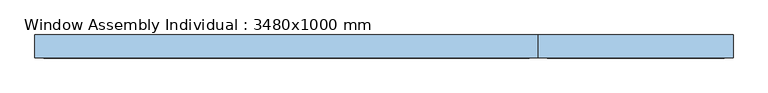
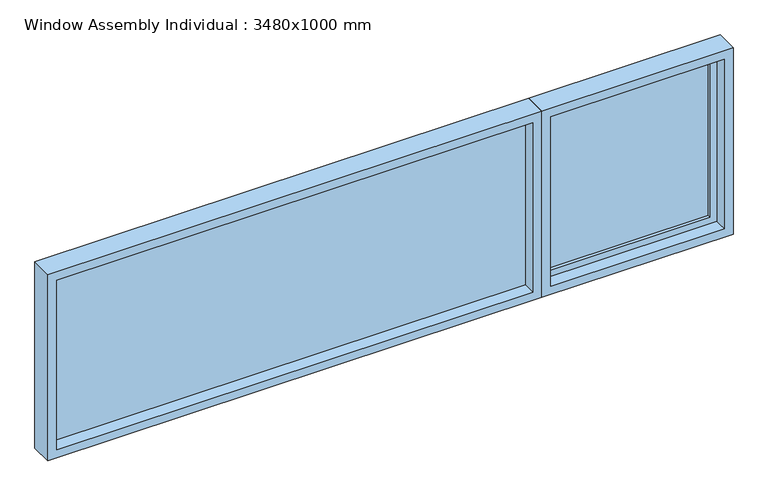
"""IFC4 building model written with IfcOpenShell, lengths in millimetres: window geometry, Window Assembly Individual : 3480x1000 mm."""

from ifc_helpers import new_model, si_unit, frame, origin, place, context, project, spatial, polyline, outline, extrude, faceted_brep, source, transform, mapped, element, save


def window_assembly_individual_3480x1000_mm_821603bf(model_context):
    return source(origin(), model_context, "Body", "SolidModel", [
        extrude(outline(polyline([(830.0, 798.0), (830.0, 1710.0), (1770.0, 1710.0), (1770.0, 798.0), (830.0, 798.0)]), holes=[polyline([(1720.0, 848.0), (1720.0, 1660.0), (880.0, 1660.0), (880.0, 848.0), (1720.0, 848.0)])]), frame((0.0, 140.0, 0.0), z_axis=(0.0, 1.0, 0.0), x_axis=(0.0, 0.0, 1.0)), (0.0, 0.0, 1.0), 50.0),
        extrude(outline(polyline([(1660.0, 155.0), (848.0, 155.0), (848.0, 175.0), (1660.0, 175.0), (1660.0, 155.0)])), frame((0.0, 0.0, 880.0), z_axis=(0.0, 0.0, 1.0), x_axis=(1.0, 0.0, 0.0)), (0.0, 0.0, 1.0), 840.0),
        faceted_brep([(1695.0, 75.0, 1755.0), (1695.0, 140.0, 1755.0), (1695.0, 140.0, 845.0), (1695.0, 75.0, 845.0), (1710.0, 140.0, 830.0), (798.0, 140.0, 830.0), (798.0, 140.0, 1770.0), (1710.0, 140.0, 1770.0), (813.0, 140.0, 1755.0), (813.0, 140.0, 845.0), (813.0, 75.0, 845.0), (1740.0, 75.0, 1800.0), (768.0, 75.0, 1800.0), (768.0, 75.0, 800.0), (1740.0, 75.0, 800.0), (813.0, 75.0, 1755.0), (1740.0, 190.0, 1800.0), (1740.0, 190.0, 800.0), (768.0, 190.0, 800.0), (768.0, 190.0, 1800.0), (1710.0, 190.0, 1770.0), (798.0, 190.0, 1770.0), (798.0, 190.0, 830.0), (1710.0, 190.0, 830.0)], [[[0, 1, 2, 3]], [[4, 5, 6, 7], [1, 8, 9, 2]], [[3, 2, 9, 10]], [[11, 12, 13, 14], [3, 10, 15, 0]], [[16, 11, 14, 17]], [[17, 14, 13, 18]], [[17, 18, 19, 16], [20, 21, 22, 23]], [[10, 9, 8, 15]], [[18, 13, 12, 19]], [[5, 22, 21, 6]], [[4, 23, 22, 5]], [[7, 20, 23, 4]], [[15, 8, 1, 0]], [[19, 12, 11, 16]], [[6, 21, 20, 7]]]),
        extrude(outline(polyline([(723.0, 140.0), (-1695.0, 140.0), (-1695.0, 162.0), (723.0, 162.0), (723.0, 140.0)])), frame((0.0, 0.0, 845.0), z_axis=(0.0, 0.0, 1.0), x_axis=(1.0, 0.0, 0.0)), (0.0, 0.0, 1.0), 910.0),
        extrude(outline(polyline([(1800.0, 768.0), (1800.0, -1740.0), (800.0, -1740.0), (800.0, 768.0), (1800.0, 768.0)]), holes=[polyline([(845.0, 723.0), (845.0, -1695.0), (1755.0, -1695.0), (1755.0, 723.0), (845.0, 723.0)])]), frame((0.0, 75.0, 0.0), z_axis=(0.0, 1.0, 0.0), x_axis=(0.0, 0.0, 1.0)), (0.0, 0.0, 1.0), 115.0),
    ])


if __name__ == "__main__":
    model = new_model("IFC4")
    model_context = context("Model", 3, world=origin())
    ifc_project = project(units=[si_unit("LENGTHUNIT", "METRE", prefix="MILLI")], contexts=[model_context])
    site = spatial("IfcSite", under=ifc_project)
    building = spatial("IfcBuilding", under=site)
    placement = place(None, origin())
    window_assembly_individual_3480x1000_mm_shape = window_assembly_individual_3480x1000_mm_821603bf(model_context)
    element("IfcWindow", 1, ObjectType="Window Assembly Individual : 3480x1000 mm", at=placement, inside=building, context=model_context, shape_type="MappedRepresentation", body=[
        mapped(window_assembly_individual_3480x1000_mm_shape, transform((0.0, 0.0, 0.0), x_axis=(1.0, 0.0, 0.0), y_axis=(0.0, 1.0, 0.0), z_axis=(0.0, 0.0, 1.0))),
    ])
    save(model, "model.ifc")
